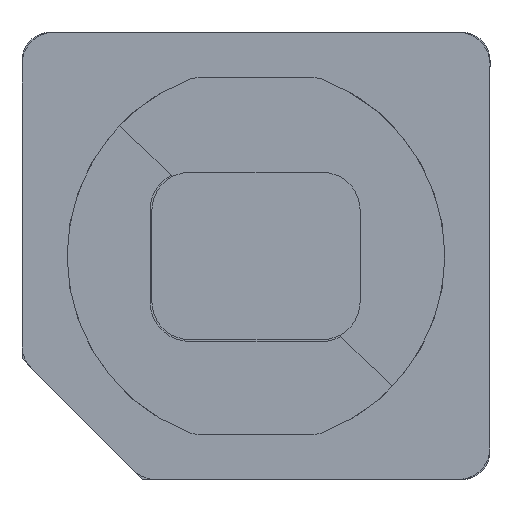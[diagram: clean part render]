
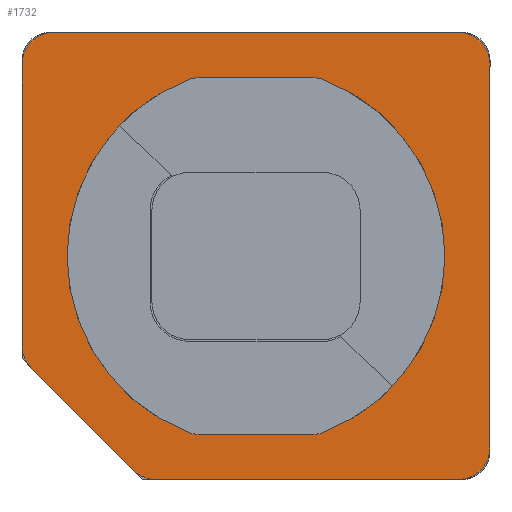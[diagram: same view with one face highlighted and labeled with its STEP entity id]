
A CAD part, top view. The second image highlights one B-rep face of the part: STEP entity #1732.
In plain terms, the highlighted planar face has unit normal (0, 0, 1).
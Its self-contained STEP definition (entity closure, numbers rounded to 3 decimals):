
#22=FACE_BOUND('',#201,.T.);
#95=FACE_OUTER_BOUND('',#200,.T.);
#200=EDGE_LOOP('',(#1282,#1283,#1284,#1285,#1286,#1287,#1288,#1289,#1290,
#1291));
#201=EDGE_LOOP('',(#1292,#1293,#1294,#1295,#1296,#1297,#1298,#1299));
#306=CIRCLE('',#1880,3.);
#307=CIRCLE('',#1883,3.);
#309=CIRCLE('',#1886,3.);
#311=CIRCLE('',#1890,3.);
#312=CIRCLE('',#1892,18.);
#316=CIRCLE('',#1897,3.);
#317=CIRCLE('',#1900,3.);
#318=CIRCLE('',#1901,3.);
#319=CIRCLE('',#1902,3.);
#320=CIRCLE('',#1903,3.);
#321=CIRCLE('',#1904,18.);
#406=LINE('',#2730,#578);
#410=LINE('',#2748,#582);
#416=LINE('',#2771,#588);
#419=LINE('',#2777,#591);
#420=LINE('',#2781,#592);
#421=LINE('',#2785,#593);
#422=LINE('',#2789,#594);
#578=VECTOR('',#2179,10.);
#582=VECTOR('',#2197,10.);
#588=VECTOR('',#2223,10.);
#591=VECTOR('',#2228,10.);
#592=VECTOR('',#2231,10.);
#593=VECTOR('',#2234,10.);
#594=VECTOR('',#2237,10.);
#757=VERTEX_POINT('',#2720);
#758=VERTEX_POINT('',#2722);
#760=VERTEX_POINT('',#2728);
#761=VERTEX_POINT('',#2732);
#763=VERTEX_POINT('',#2738);
#764=VERTEX_POINT('',#2739);
#767=VERTEX_POINT('',#2747);
#768=VERTEX_POINT('',#2752);
#772=VERTEX_POINT('',#2764);
#773=VERTEX_POINT('',#2766);
#774=VERTEX_POINT('',#2770);
#776=VERTEX_POINT('',#2776);
#777=VERTEX_POINT('',#2778);
#778=VERTEX_POINT('',#2780);
#779=VERTEX_POINT('',#2782);
#780=VERTEX_POINT('',#2784);
#781=VERTEX_POINT('',#2786);
#782=VERTEX_POINT('',#2788);
#939=EDGE_CURVE('',#757,#758,#306,.T.);
#943=EDGE_CURVE('',#757,#760,#406,.T.);
#944=EDGE_CURVE('',#761,#760,#307,.T.);
#947=EDGE_CURVE('',#763,#764,#309,.T.);
#951=EDGE_CURVE('',#767,#764,#410,.T.);
#954=EDGE_CURVE('',#767,#768,#311,.T.);
#956=EDGE_CURVE('',#763,#758,#312,.T.);
#961=EDGE_CURVE('',#772,#773,#316,.T.);
#963=EDGE_CURVE('',#774,#773,#416,.T.);
#966=EDGE_CURVE('',#776,#772,#419,.T.);
#967=EDGE_CURVE('',#777,#776,#317,.T.);
#968=EDGE_CURVE('',#777,#778,#420,.T.);
#969=EDGE_CURVE('',#779,#778,#318,.T.);
#970=EDGE_CURVE('',#779,#780,#421,.T.);
#971=EDGE_CURVE('',#781,#780,#319,.T.);
#972=EDGE_CURVE('',#781,#782,#422,.T.);
#973=EDGE_CURVE('',#774,#782,#320,.T.);
#974=EDGE_CURVE('',#761,#768,#321,.T.);
#1282=ORIENTED_EDGE('',*,*,#961,.F.);
#1283=ORIENTED_EDGE('',*,*,#966,.F.);
#1284=ORIENTED_EDGE('',*,*,#967,.F.);
#1285=ORIENTED_EDGE('',*,*,#968,.T.);
#1286=ORIENTED_EDGE('',*,*,#969,.F.);
#1287=ORIENTED_EDGE('',*,*,#970,.T.);
#1288=ORIENTED_EDGE('',*,*,#971,.F.);
#1289=ORIENTED_EDGE('',*,*,#972,.T.);
#1290=ORIENTED_EDGE('',*,*,#973,.F.);
#1291=ORIENTED_EDGE('',*,*,#963,.T.);
#1292=ORIENTED_EDGE('',*,*,#956,.T.);
#1293=ORIENTED_EDGE('',*,*,#939,.F.);
#1294=ORIENTED_EDGE('',*,*,#943,.T.);
#1295=ORIENTED_EDGE('',*,*,#944,.F.);
#1296=ORIENTED_EDGE('',*,*,#974,.T.);
#1297=ORIENTED_EDGE('',*,*,#954,.F.);
#1298=ORIENTED_EDGE('',*,*,#951,.T.);
#1299=ORIENTED_EDGE('',*,*,#947,.F.);
#1654=PLANE('',#1899);
#1732=ADVANCED_FACE('',(#95,#22),#1654,.T.);
#1880=AXIS2_PLACEMENT_3D('',#2723,#2172,#2173);
#1883=AXIS2_PLACEMENT_3D('',#2733,#2182,#2183);
#1886=AXIS2_PLACEMENT_3D('',#2740,#2189,#2190);
#1890=AXIS2_PLACEMENT_3D('',#2753,#2202,#2203);
#1892=AXIS2_PLACEMENT_3D('',#2756,#2207,#2208);
#1897=AXIS2_PLACEMENT_3D('',#2767,#2218,#2219);
#1899=AXIS2_PLACEMENT_3D('',#2775,#2226,#2227);
#1900=AXIS2_PLACEMENT_3D('',#2779,#2229,#2230);
#1901=AXIS2_PLACEMENT_3D('',#2783,#2232,#2233);
#1902=AXIS2_PLACEMENT_3D('',#2787,#2235,#2236);
#1903=AXIS2_PLACEMENT_3D('',#2790,#2238,#2239);
#1904=AXIS2_PLACEMENT_3D('',#2791,#2240,#2241);
#2172=DIRECTION('center_axis',(0.,0.,
1.));
#2173=DIRECTION('ref_axis',(0.183,-0.983,0.));
#2179=DIRECTION('',(-1.,0.,0.));
#2182=DIRECTION('center_axis',(0.,0.,
1.));
#2183=DIRECTION('ref_axis',(-0.183,-0.983,0.));
#2189=DIRECTION('center_axis',(0.,0.,
1.));
#2190=DIRECTION('ref_axis',(0.183,0.983,0.));
#2197=DIRECTION('',(1.,0.,0.));
#2202=DIRECTION('center_axis',(0.,0.,
1.));
#2203=DIRECTION('ref_axis',(-0.183,0.983,0.));
#2207=DIRECTION('center_axis',(0.,0.,
-1.));
#2208=DIRECTION('ref_axis',(-1.,0.,0.));
#2218=DIRECTION('center_axis',(0.,0.,
-1.));
#2219=DIRECTION('ref_axis',(-0.924,-0.383,0.));
#2223=DIRECTION('',(0.,-1.,0.));
#2226=DIRECTION('center_axis',(0.,0.,
1.));
#2227=DIRECTION('ref_axis',(1.,0.,0.));
#2228=DIRECTION('',(-0.707,0.707,0.));
#2229=DIRECTION('center_axis',(0.,0.,
-1.));
#2230=DIRECTION('ref_axis',(-0.383,-0.924,0.));
#2231=DIRECTION('',(1.,0.,0.));
#2232=DIRECTION('center_axis',(0.,0.,
-1.));
#2233=DIRECTION('ref_axis',(0.707,-0.707,0.));
#2234=DIRECTION('',(0.,1.,0.));
#2235=DIRECTION('center_axis',(0.,0.,
-1.));
#2236=DIRECTION('ref_axis',(0.707,0.707,0.));
#2237=DIRECTION('',(-1.,0.,0.));
#2238=DIRECTION('center_axis',(0.,0.,
-1.));
#2239=DIRECTION('ref_axis',(-0.707,0.707,0.));
#2240=DIRECTION('center_axis',(0.,0.,
-1.));
#2241=DIRECTION('ref_axis',(-1.,0.,0.));
#2720=CARTESIAN_POINT('',(5.385,-17.,3.115));
#2722=CARTESIAN_POINT('',(6.462,-16.8,3.115));
#2723=CARTESIAN_POINT('Origin',(5.385,-14.,3.115));
#2728=CARTESIAN_POINT('',(-5.385,-17.,3.115));
#2730=CARTESIAN_POINT('',(5.916,-17.,3.115));
#2732=CARTESIAN_POINT('',(-6.462,-16.8,3.115));
#2733=CARTESIAN_POINT('Origin',(-5.385,-14.,3.115));
#2738=CARTESIAN_POINT('',(6.462,16.8,3.115));
#2739=CARTESIAN_POINT('',(5.385,17.,3.115));
#2740=CARTESIAN_POINT('Origin',(5.385,14.,3.115));
#2747=CARTESIAN_POINT('',(-5.385,17.,3.115));
#2748=CARTESIAN_POINT('',(-5.916,17.,3.115));
#2752=CARTESIAN_POINT('',(-6.462,16.8,3.115));
#2753=CARTESIAN_POINT('Origin',(-5.385,14.,3.115));
#2756=CARTESIAN_POINT('Origin',(0.,0.,
3.115));
#2764=CARTESIAN_POINT('',(-21.421,-10.679,3.115));
#2766=CARTESIAN_POINT('',(-22.3,-8.557,3.115));
#2767=CARTESIAN_POINT('Origin',(-19.3,-8.557,3.115));
#2770=CARTESIAN_POINT('',(-22.3,18.3,3.115));
#2771=CARTESIAN_POINT('',(-22.3,21.3,3.115));
#2775=CARTESIAN_POINT('Origin',(0.,0.,
3.115));
#2776=CARTESIAN_POINT('',(-11.679,-20.421,3.115));
#2777=CARTESIAN_POINT('',(-16.3,-15.8,3.115));
#2778=CARTESIAN_POINT('',(-9.557,-21.3,3.115));
#2779=CARTESIAN_POINT('Origin',(-9.557,-18.3,3.115));
#2780=CARTESIAN_POINT('',(19.3,-21.3,3.115));
#2781=CARTESIAN_POINT('',(-22.3,-21.3,3.115));
#2782=CARTESIAN_POINT('',(22.3,-18.3,3.115));
#2783=CARTESIAN_POINT('Origin',(19.3,-18.3,3.115));
#2784=CARTESIAN_POINT('',(22.3,18.3,3.115));
#2785=CARTESIAN_POINT('',(22.3,-21.3,3.115));
#2786=CARTESIAN_POINT('',(19.3,21.3,3.115));
#2787=CARTESIAN_POINT('Origin',(19.3,18.3,3.115));
#2788=CARTESIAN_POINT('',(-19.3,21.3,3.115));
#2789=CARTESIAN_POINT('',(22.3,21.3,3.115));
#2790=CARTESIAN_POINT('Origin',(-19.3,18.3,3.115));
#2791=CARTESIAN_POINT('Origin',(0.,0.,
3.115));
